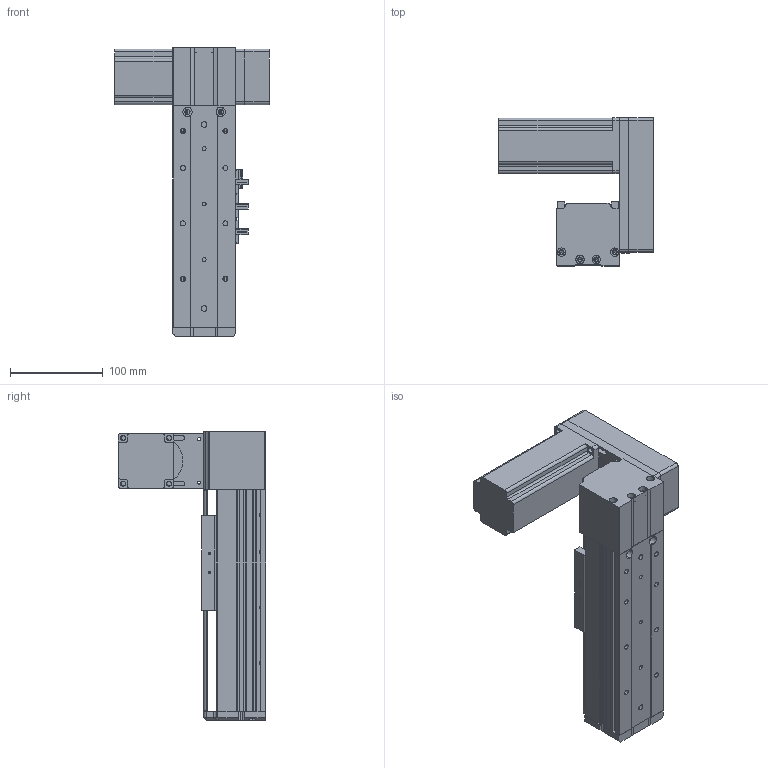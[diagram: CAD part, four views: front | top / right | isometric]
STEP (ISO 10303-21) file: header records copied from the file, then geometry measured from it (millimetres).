
FILE_DESCRIPTION (( 'STEP AP214' ), '1' );
FILE_NAME ('KSD68BS-S50-MLU-CM.STEP', '2019-08-22T02:16:02', ( '微软用户' ), ( '微软中国' ), 'SwSTEP 2.0', 'SolidWorks 2014', '' );
FILE_SCHEMA (( 'AUTOMOTIVE_DESIGN' ));
Length unit declared in the file: millimetre
Products named in the file (11): 悵誘欶奻狟殏; 68宽马达安装板连板上折同步带; 68宽单导轨半封闭同步带主动轮座左; 68单导轨同步带半封闭端板; KSD68BS 50俴最裔啣圉猾敕; 覜茼え68遵圉猾敕; KSD68BS半封闭同步带传动导轨座; U倰嫖萇EEㄜSX672; 台达ECMA－C20604AS伺服电机（400W); KSD68BS 50俴最菁啣圉猾敕; KSD68BS-S50-MLU-CM
Assembly tree (12 placements, depth 2):
  KSD68BS-S50-MLU-CM
    KSD68BS 50俴最菁啣圉猾敕
    台达ECMA－C20604AS伺服电机（400W)
    U倰嫖萇EEㄜSX672  x3
    KSD68BS半封闭同步带传动导轨座
    覜茼え68遵圉猾敕
    KSD68BS 50俴最裔啣圉猾敕
    68单导轨同步带半封闭端板
    68宽单导轨半封闭同步带主动轮座左
    68宽马达安装板连板上折同步带
    悵誘欶奻狟殏
Bounding box: 167.2 x 159.5 x 312 mm (x, y, z)
Volume: 1171344.8 mm3; surface area: 324959.1 mm2
Topology: 13 solids, 13 shells, 1198 faces, 3366 edges, 2182 vertices
Faces by surface type: plane 559, cylinder 556, cone 83
Entity records: 41062 total; most frequent: CARTESIAN_POINT 7290, DIRECTION 5552, ORIENTED_EDGE 5484, EDGE_CURVE 2742, AXIS2_PLACEMENT_3D 1972, VERTEX_POINT 1806, VECTOR 1608, LINE 1608
